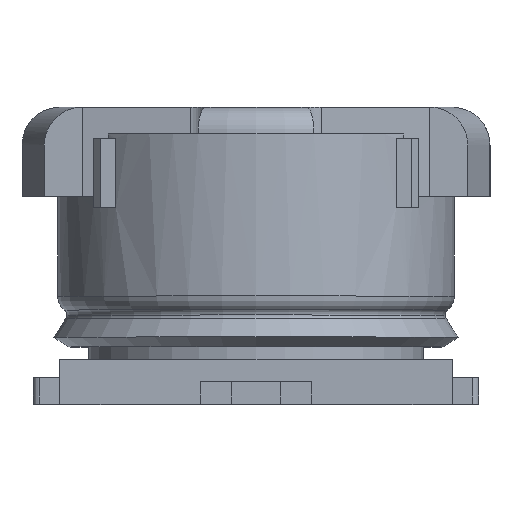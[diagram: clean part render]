
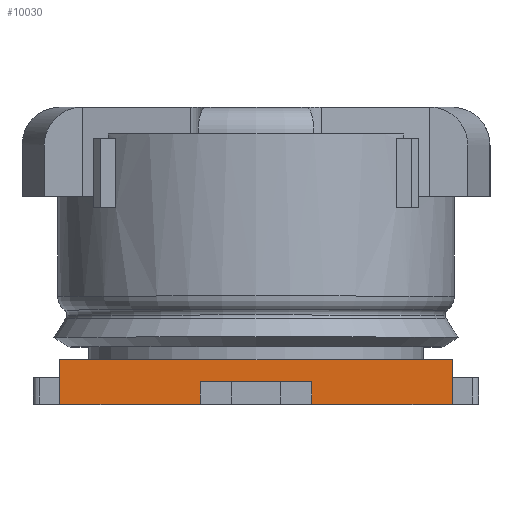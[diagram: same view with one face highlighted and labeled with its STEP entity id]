
A CAD part, top view. The second image highlights one B-rep face of the part: STEP entity #10030.
In plain terms, the highlighted planar face has unit normal (0, 0, 1).
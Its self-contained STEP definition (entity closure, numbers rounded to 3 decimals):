
#101 = ORIENTED_EDGE ( 'NONE', *, *, #7397, .T. ) ;
#215 = CARTESIAN_POINT ( 'NONE',  ( 0.88, 0., 0.84 ) ) ;
#281 = EDGE_CURVE ( 'NONE', #10893, #5184, #8066, .T. ) ;
#691 = VECTOR ( 'NONE', #4921, 1000. ) ;
#1073 = VERTEX_POINT ( 'NONE', #8981 ) ;
#1401 = AXIS2_PLACEMENT_3D ( 'NONE', #4485, #11762, #5558 ) ;
#1743 = CARTESIAN_POINT ( 'NONE',  ( 0.25, 0., 0.84 ) ) ;
#2370 = PLANE ( 'NONE',  #1401 ) ;
#2707 = CARTESIAN_POINT ( 'NONE',  ( -0.265, 0.1, 0.84 ) ) ;
#2776 = VERTEX_POINT ( 'NONE', #8185 ) ;
#2988 = VERTEX_POINT ( 'NONE', #5393 ) ;
#2999 = LINE ( 'NONE', #12113, #8293 ) ;
#3203 = VECTOR ( 'NONE', #8590, 1000. ) ;
#3372 = VERTEX_POINT ( 'NONE', #5788 ) ;
#3462 = VECTOR ( 'NONE', #3944, 1000. ) ;
#3464 = EDGE_LOOP ( 'NONE', ( #6904, #8249, #101, #6177, #12111, #7618, #8977, #9733 ) ) ;
#3752 = DIRECTION ( 'NONE',  ( 0., 1., 0. ) ) ;
#3790 = LINE ( 'NONE', #4563, #3462 ) ;
#3944 = DIRECTION ( 'NONE',  ( 0., -1., 0. ) ) ;
#4485 = CARTESIAN_POINT ( 'NONE',  ( 0.88, 0.2, 0.84 ) ) ;
#4563 = CARTESIAN_POINT ( 'NONE',  ( -0.25, 0., 0.84 ) ) ;
#4876 = CARTESIAN_POINT ( 'NONE',  ( 0.25, 0., 0.84 ) ) ;
#4895 = EDGE_CURVE ( 'NONE', #2988, #10893, #13003, .T. ) ;
#4921 = DIRECTION ( 'NONE',  ( 0., -1., 0. ) ) ;
#5184 = VERTEX_POINT ( 'NONE', #11810 ) ;
#5393 = CARTESIAN_POINT ( 'NONE',  ( -0.88, 0.2, 0.84 ) ) ;
#5457 = LINE ( 'NONE', #215, #7941 ) ;
#5558 = DIRECTION ( 'NONE',  ( -1., 0., 0. ) ) ;
#5732 = DIRECTION ( 'NONE',  ( 1., 0., 0. ) ) ;
#5772 = EDGE_CURVE ( 'NONE', #13085, #5184, #6376, .T. ) ;
#5788 = CARTESIAN_POINT ( 'NONE',  ( 0.25, 0.1, 0.84 ) ) ;
#5914 = DIRECTION ( 'NONE',  ( 0., -1., 0. ) ) ;
#6054 = CARTESIAN_POINT ( 'NONE',  ( 0.88, 0., 0.84 ) ) ;
#6177 = ORIENTED_EDGE ( 'NONE', *, *, #8856, .F. ) ;
#6328 = LINE ( 'NONE', #2707, #11487 ) ;
#6376 = LINE ( 'NONE', #6054, #3203 ) ;
#6904 = ORIENTED_EDGE ( 'NONE', *, *, #8165, .T. ) ;
#7204 = VECTOR ( 'NONE', #3752, 1000. ) ;
#7397 = EDGE_CURVE ( 'NONE', #12279, #3372, #6328, .T. ) ;
#7618 = ORIENTED_EDGE ( 'NONE', *, *, #281, .F. ) ;
#7783 = CARTESIAN_POINT ( 'NONE',  ( 0.88, 0.2, 0.84 ) ) ;
#7941 = VECTOR ( 'NONE', #5732, 1000. ) ;
#8066 = LINE ( 'NONE', #7783, #691 ) ;
#8165 = EDGE_CURVE ( 'NONE', #1073, #2776, #5457, .T. ) ;
#8185 = CARTESIAN_POINT ( 'NONE',  ( -0.25, 0., 0.84 ) ) ;
#8249 = ORIENTED_EDGE ( 'NONE', *, *, #8348, .F. ) ;
#8293 = VECTOR ( 'NONE', #5914, 1000. ) ;
#8348 = EDGE_CURVE ( 'NONE', #12279, #2776, #3790, .T. ) ;
#8590 = DIRECTION ( 'NONE',  ( 1., 0., 0. ) ) ;
#8856 = EDGE_CURVE ( 'NONE', #13085, #3372, #9300, .T. ) ;
#8977 = ORIENTED_EDGE ( 'NONE', *, *, #4895, .F. ) ;
#8981 = CARTESIAN_POINT ( 'NONE',  ( -0.88, 0., 0.84 ) ) ;
#9300 = LINE ( 'NONE', #1743, #7204 ) ;
#9522 = DIRECTION ( 'NONE',  ( 1., 0., 0. ) ) ;
#9733 = ORIENTED_EDGE ( 'NONE', *, *, #11869, .T. ) ;
#10030 = ADVANCED_FACE ( 'NONE', ( #12480 ), #2370, .F. ) ;
#10097 = CARTESIAN_POINT ( 'NONE',  ( 0.88, 0.2, 0.84 ) ) ;
#10262 = VECTOR ( 'NONE', #9522, 1000. ) ;
#10495 = CARTESIAN_POINT ( 'NONE',  ( -0.25, 0.1, 0.84 ) ) ;
#10540 = DIRECTION ( 'NONE',  ( 1., 0., 0. ) ) ;
#10893 = VERTEX_POINT ( 'NONE', #13179 ) ;
#11487 = VECTOR ( 'NONE', #10540, 1000. ) ;
#11762 = DIRECTION ( 'NONE',  ( 0., 0., -1. ) ) ;
#11810 = CARTESIAN_POINT ( 'NONE',  ( 0.88, 0., 0.84 ) ) ;
#11869 = EDGE_CURVE ( 'NONE', #2988, #1073, #2999, .T. ) ;
#12111 = ORIENTED_EDGE ( 'NONE', *, *, #5772, .T. ) ;
#12113 = CARTESIAN_POINT ( 'NONE',  ( -0.88, 0.2, 0.84 ) ) ;
#12279 = VERTEX_POINT ( 'NONE', #10495 ) ;
#12480 = FACE_OUTER_BOUND ( 'NONE', #3464, .T. ) ;
#13003 = LINE ( 'NONE', #10097, #10262 ) ;
#13085 = VERTEX_POINT ( 'NONE', #4876 ) ;
#13179 = CARTESIAN_POINT ( 'NONE',  ( 0.88, 0.2, 0.84 ) ) ;
